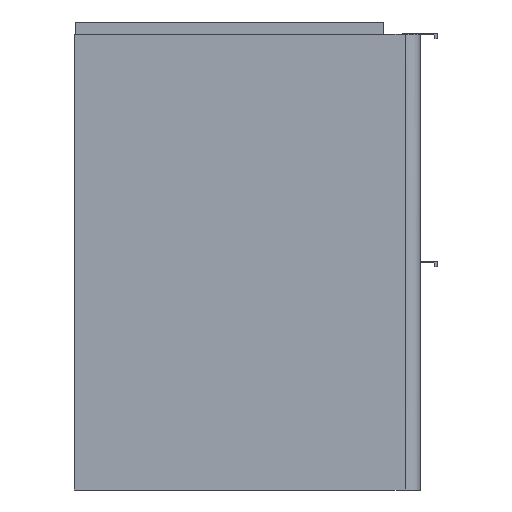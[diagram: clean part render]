
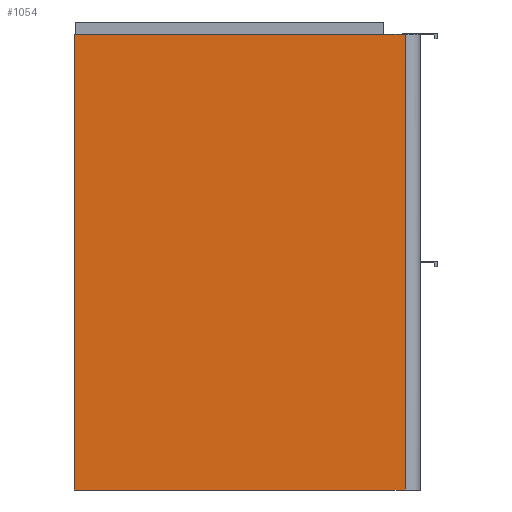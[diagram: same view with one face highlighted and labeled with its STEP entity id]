
A CAD part, left-side view. The second image highlights one B-rep face of the part: STEP entity #1054.
In plain terms, the highlighted planar face has unit normal (-1, 0, 0).
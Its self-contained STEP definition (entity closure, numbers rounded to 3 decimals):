
#1054=ADVANCED_FACE('',(#1649),#10891,.T.);
#1649=FACE_OUTER_BOUND('',#2338,.T.);
#2338=EDGE_LOOP('',(#5717,#5718,#5719,#5720));
#5717=ORIENTED_EDGE('',*,*,#7490,.F.);
#5718=ORIENTED_EDGE('',*,*,#7497,.T.);
#5719=ORIENTED_EDGE('',*,*,#7498,.T.);
#5720=ORIENTED_EDGE('',*,*,#7493,.T.);
#7490=EDGE_CURVE('',#10433,#10434,#8776,.T.);
#7493=EDGE_CURVE('',#10436,#10434,#8778,.T.);
#7497=EDGE_CURVE('',#10433,#10439,#8782,.T.);
#7498=EDGE_CURVE('',#10439,#10436,#8783,.T.);
#8776=B_SPLINE_CURVE_WITH_KNOTS('',1,(#20342,#20343),.UNSPECIFIED.,.F.,
 .F.,(2,2),(0.,515.),.UNSPECIFIED.);
#8778=B_SPLINE_CURVE_WITH_KNOTS('',1,(#20349,#20350),.UNSPECIFIED.,.F.,
 .F.,(2,2),(-374.,0.),.UNSPECIFIED.);
#8782=B_SPLINE_CURVE_WITH_KNOTS('',1,(#20357,#20358),.UNSPECIFIED.,.F.,
 .F.,(2,2),(-374.,0.),.UNSPECIFIED.);
#8783=B_SPLINE_CURVE_WITH_KNOTS('',1,(#20359,#20360),.UNSPECIFIED.,.F.,
 .F.,(2,2),(-515.,0.),.UNSPECIFIED.);
#10433=VERTEX_POINT('',#20330);
#10434=VERTEX_POINT('',#20331);
#10436=VERTEX_POINT('',#20333);
#10439=VERTEX_POINT('',#20336);
#10891=PLANE('',#12003);
#12003=AXIS2_PLACEMENT_3D('',#20324,#12572,$);
#12572=DIRECTION('',(-1.,0.,0.));
#20324=CARTESIAN_POINT('',(-266.25,233.02,-51.62));
#20330=CARTESIAN_POINT('',(-266.25,-178.5,515.));
#20331=CARTESIAN_POINT('',(-266.25,-178.5,0.));
#20333=CARTESIAN_POINT('',(-266.25,195.5,0.));
#20336=CARTESIAN_POINT('',(-266.25,195.5,515.));
#20342=CARTESIAN_POINT('',(-266.25,-178.5,515.));
#20343=CARTESIAN_POINT('',(-266.25,-178.5,0.));
#20349=CARTESIAN_POINT('',(-266.25,195.5,0.));
#20350=CARTESIAN_POINT('',(-266.25,-178.5,0.));
#20357=CARTESIAN_POINT('',(-266.25,-178.5,515.));
#20358=CARTESIAN_POINT('',(-266.25,195.5,515.));
#20359=CARTESIAN_POINT('',(-266.25,195.5,515.));
#20360=CARTESIAN_POINT('',(-266.25,195.5,0.));
